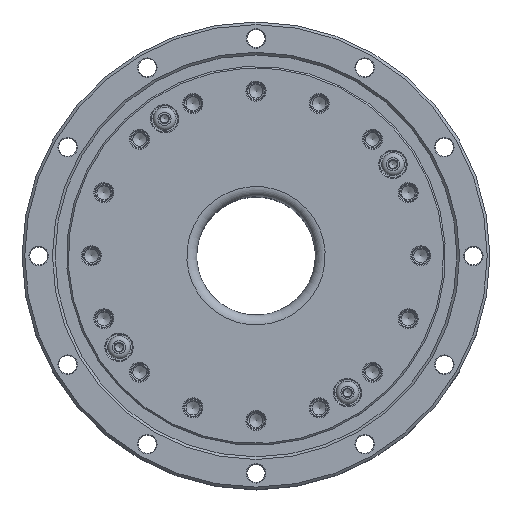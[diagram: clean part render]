
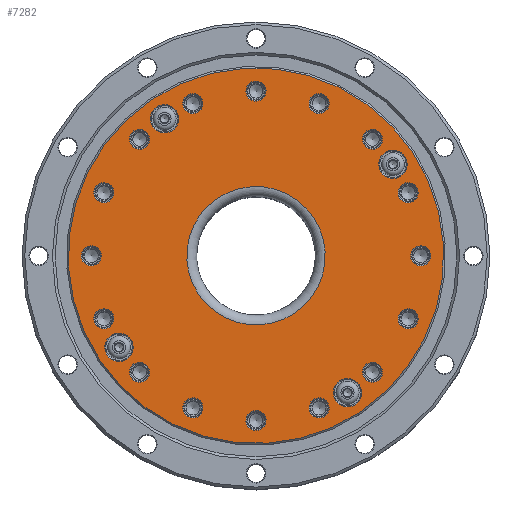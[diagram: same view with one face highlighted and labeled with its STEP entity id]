
A CAD part, top view. The second image highlights one B-rep face of the part: STEP entity #7282.
In plain terms, the highlighted planar face has unit normal (0, 0, 1).
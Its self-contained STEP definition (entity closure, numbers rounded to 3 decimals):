
#7282=ADVANCED_FACE('',(#10528,#10529,#10530,#10531,#10532,#10533,#10534,
#10535,#10536,#10537,#10538,#10539,#10540,#10541,#10542,#10543,#10544,#10545,
#10546,#10547,#10548,#10549),#8369,.T.);
#8369=PLANE('',#31676);
#10528=FACE_BOUND('',#13566,.T.);
#10529=FACE_BOUND('',#13567,.T.);
#10530=FACE_BOUND('',#13568,.T.);
#10531=FACE_BOUND('',#13569,.T.);
#10532=FACE_BOUND('',#13570,.T.);
#10533=FACE_BOUND('',#13571,.T.);
#10534=FACE_BOUND('',#13572,.T.);
#10535=FACE_BOUND('',#13573,.T.);
#10536=FACE_BOUND('',#13574,.T.);
#10537=FACE_BOUND('',#13575,.T.);
#10538=FACE_BOUND('',#13576,.T.);
#10539=FACE_BOUND('',#13577,.T.);
#10540=FACE_BOUND('',#13578,.T.);
#10541=FACE_BOUND('',#13579,.T.);
#10542=FACE_BOUND('',#13580,.T.);
#10543=FACE_BOUND('',#13581,.T.);
#10544=FACE_BOUND('',#13582,.T.);
#10545=FACE_BOUND('',#13583,.T.);
#10546=FACE_BOUND('',#13584,.T.);
#10547=FACE_BOUND('',#13585,.T.);
#10548=FACE_BOUND('',#13586,.T.);
#10549=FACE_BOUND('',#13587,.T.);
#13566=EDGE_LOOP('',(#19001));
#13567=EDGE_LOOP('',(#19002));
#13568=EDGE_LOOP('',(#19003));
#13569=EDGE_LOOP('',(#19004));
#13570=EDGE_LOOP('',(#19005));
#13571=EDGE_LOOP('',(#19006));
#13572=EDGE_LOOP('',(#19007));
#13573=EDGE_LOOP('',(#19008));
#13574=EDGE_LOOP('',(#19009));
#13575=EDGE_LOOP('',(#19010));
#13576=EDGE_LOOP('',(#19011));
#13577=EDGE_LOOP('',(#19012));
#13578=EDGE_LOOP('',(#19013));
#13579=EDGE_LOOP('',(#19014));
#13580=EDGE_LOOP('',(#19015));
#13581=EDGE_LOOP('',(#19016));
#13582=EDGE_LOOP('',(#19017));
#13583=EDGE_LOOP('',(#19018));
#13584=EDGE_LOOP('',(#19019));
#13585=EDGE_LOOP('',(#19020));
#13586=EDGE_LOOP('',(#19021));
#13587=EDGE_LOOP('',(#19022));
#19001=ORIENTED_EDGE('',*,*,#25787,.T.);
#19002=ORIENTED_EDGE('',*,*,#25788,.T.);
#19003=ORIENTED_EDGE('',*,*,#25789,.T.);
#19004=ORIENTED_EDGE('',*,*,#25790,.T.);
#19005=ORIENTED_EDGE('',*,*,#25791,.T.);
#19006=ORIENTED_EDGE('',*,*,#25792,.T.);
#19007=ORIENTED_EDGE('',*,*,#25793,.T.);
#19008=ORIENTED_EDGE('',*,*,#25794,.T.);
#19009=ORIENTED_EDGE('',*,*,#25795,.T.);
#19010=ORIENTED_EDGE('',*,*,#25796,.T.);
#19011=ORIENTED_EDGE('',*,*,#25797,.T.);
#19012=ORIENTED_EDGE('',*,*,#25798,.T.);
#19013=ORIENTED_EDGE('',*,*,#25799,.T.);
#19014=ORIENTED_EDGE('',*,*,#25800,.T.);
#19015=ORIENTED_EDGE('',*,*,#25801,.T.);
#19016=ORIENTED_EDGE('',*,*,#25802,.T.);
#19017=ORIENTED_EDGE('',*,*,#25803,.T.);
#19018=ORIENTED_EDGE('',*,*,#25804,.T.);
#19019=ORIENTED_EDGE('',*,*,#25805,.T.);
#19020=ORIENTED_EDGE('',*,*,#25806,.T.);
#19021=ORIENTED_EDGE('',*,*,#25807,.T.);
#19022=ORIENTED_EDGE('',*,*,#25808,.T.);
#22826=VERTEX_POINT('',#48826);
#22827=VERTEX_POINT('',#48828);
#22828=VERTEX_POINT('',#48830);
#22829=VERTEX_POINT('',#48832);
#22830=VERTEX_POINT('',#48834);
#22831=VERTEX_POINT('',#48836);
#22832=VERTEX_POINT('',#48838);
#22833=VERTEX_POINT('',#48840);
#22834=VERTEX_POINT('',#48842);
#22835=VERTEX_POINT('',#48844);
#22836=VERTEX_POINT('',#48846);
#22837=VERTEX_POINT('',#48848);
#22838=VERTEX_POINT('',#48850);
#22839=VERTEX_POINT('',#48852);
#22840=VERTEX_POINT('',#48854);
#22841=VERTEX_POINT('',#48856);
#22842=VERTEX_POINT('',#48858);
#22843=VERTEX_POINT('',#48860);
#22844=VERTEX_POINT('',#48862);
#22845=VERTEX_POINT('',#48864);
#22846=VERTEX_POINT('',#48866);
#22847=VERTEX_POINT('',#48868);
#25787=EDGE_CURVE('',#22826,#22826,#28221,.T.);
#25788=EDGE_CURVE('',#22827,#22827,#28222,.T.);
#25789=EDGE_CURVE('',#22828,#22828,#28223,.T.);
#25790=EDGE_CURVE('',#22829,#22829,#28224,.T.);
#25791=EDGE_CURVE('',#22830,#22830,#28225,.T.);
#25792=EDGE_CURVE('',#22831,#22831,#28226,.T.);
#25793=EDGE_CURVE('',#22832,#22832,#28227,.T.);
#25794=EDGE_CURVE('',#22833,#22833,#28228,.T.);
#25795=EDGE_CURVE('',#22834,#22834,#28229,.T.);
#25796=EDGE_CURVE('',#22835,#22835,#28230,.T.);
#25797=EDGE_CURVE('',#22836,#22836,#28231,.T.);
#25798=EDGE_CURVE('',#22837,#22837,#28232,.T.);
#25799=EDGE_CURVE('',#22838,#22838,#28233,.T.);
#25800=EDGE_CURVE('',#22839,#22839,#28234,.T.);
#25801=EDGE_CURVE('',#22840,#22840,#28235,.T.);
#25802=EDGE_CURVE('',#22841,#22841,#28236,.T.);
#25803=EDGE_CURVE('',#22842,#22842,#28237,.T.);
#25804=EDGE_CURVE('',#22843,#22843,#28238,.T.);
#25805=EDGE_CURVE('',#22844,#22844,#28239,.T.);
#25806=EDGE_CURVE('',#22845,#22845,#28240,.T.);
#25807=EDGE_CURVE('',#22846,#22846,#28241,.T.);
#25808=EDGE_CURVE('',#22847,#22847,#28242,.T.);
#28221=CIRCLE('',#31654,4.3);
#28222=CIRCLE('',#31655,4.3);
#28223=CIRCLE('',#31656,4.3);
#28224=CIRCLE('',#31657,4.3);
#28225=CIRCLE('',#31658,3.05);
#28226=CIRCLE('',#31659,3.05);
#28227=CIRCLE('',#31660,3.05);
#28228=CIRCLE('',#31661,3.05);
#28229=CIRCLE('',#31662,3.05);
#28230=CIRCLE('',#31663,3.05);
#28231=CIRCLE('',#31664,3.05);
#28232=CIRCLE('',#31665,3.05);
#28233=CIRCLE('',#31666,3.05);
#28234=CIRCLE('',#31667,3.05);
#28235=CIRCLE('',#31668,3.05);
#28236=CIRCLE('',#31669,3.05);
#28237=CIRCLE('',#31670,3.05);
#28238=CIRCLE('',#31671,3.05);
#28239=CIRCLE('',#31672,3.05);
#28240=CIRCLE('',#31673,3.05);
#28241=CIRCLE('',#31674,57.);
#28242=CIRCLE('',#31675,21.);
#31654=AXIS2_PLACEMENT_3D('',#48825,#39250,#39251);
#31655=AXIS2_PLACEMENT_3D('',#48827,#39252,#39253);
#31656=AXIS2_PLACEMENT_3D('',#48829,#39254,#39255);
#31657=AXIS2_PLACEMENT_3D('',#48831,#39256,#39257);
#31658=AXIS2_PLACEMENT_3D('',#48833,#39258,#39259);
#31659=AXIS2_PLACEMENT_3D('',#48835,#39260,#39261);
#31660=AXIS2_PLACEMENT_3D('',#48837,#39262,#39263);
#31661=AXIS2_PLACEMENT_3D('',#48839,#39264,#39265);
#31662=AXIS2_PLACEMENT_3D('',#48841,#39266,#39267);
#31663=AXIS2_PLACEMENT_3D('',#48843,#39268,#39269);
#31664=AXIS2_PLACEMENT_3D('',#48845,#39270,#39271);
#31665=AXIS2_PLACEMENT_3D('',#48847,#39272,#39273);
#31666=AXIS2_PLACEMENT_3D('',#48849,#39274,#39275);
#31667=AXIS2_PLACEMENT_3D('',#48851,#39276,#39277);
#31668=AXIS2_PLACEMENT_3D('',#48853,#39278,#39279);
#31669=AXIS2_PLACEMENT_3D('',#48855,#39280,#39281);
#31670=AXIS2_PLACEMENT_3D('',#48857,#39282,#39283);
#31671=AXIS2_PLACEMENT_3D('',#48859,#39284,#39285);
#31672=AXIS2_PLACEMENT_3D('',#48861,#39286,#39287);
#31673=AXIS2_PLACEMENT_3D('',#48863,#39288,#39289);
#31674=AXIS2_PLACEMENT_3D('',#48865,#39290,#39291);
#31675=AXIS2_PLACEMENT_3D('',#48867,#39292,#39293);
#31676=AXIS2_PLACEMENT_3D('',#48869,#39294,#39295);
#39250=DIRECTION('',(0.,0.,-1.));
#39251=DIRECTION('',(0.831,0.556,0.));
#39252=DIRECTION('',(0.,0.,-1.));
#39253=DIRECTION('',(0.831,0.556,0.));
#39254=DIRECTION('',(0.,0.,-1.));
#39255=DIRECTION('',(0.831,0.556,0.));
#39256=DIRECTION('',(0.,0.,-1.));
#39257=DIRECTION('',(0.831,0.556,0.));
#39258=DIRECTION('',(0.,0.,-1.));
#39259=DIRECTION('',(0.831,0.556,0.));
#39260=DIRECTION('',(0.,0.,-1.));
#39261=DIRECTION('',(0.831,0.556,0.));
#39262=DIRECTION('',(0.,0.,-1.));
#39263=DIRECTION('',(0.831,0.556,0.));
#39264=DIRECTION('',(0.,0.,-1.));
#39265=DIRECTION('',(0.831,0.556,0.));
#39266=DIRECTION('',(0.,0.,-1.));
#39267=DIRECTION('',(0.831,0.556,0.));
#39268=DIRECTION('',(0.,0.,-1.));
#39269=DIRECTION('',(0.831,0.556,0.));
#39270=DIRECTION('',(0.,0.,-1.));
#39271=DIRECTION('',(0.831,0.556,0.));
#39272=DIRECTION('',(0.,0.,-1.));
#39273=DIRECTION('',(0.831,0.556,0.));
#39274=DIRECTION('',(0.,0.,-1.));
#39275=DIRECTION('',(0.831,0.556,0.));
#39276=DIRECTION('',(0.,0.,-1.));
#39277=DIRECTION('',(0.831,0.556,0.));
#39278=DIRECTION('',(0.,0.,-1.));
#39279=DIRECTION('',(0.831,0.556,0.));
#39280=DIRECTION('',(0.,0.,-1.));
#39281=DIRECTION('',(0.831,0.556,0.));
#39282=DIRECTION('',(0.,0.,-1.));
#39283=DIRECTION('',(0.831,0.556,0.));
#39284=DIRECTION('',(0.,0.,-1.));
#39285=DIRECTION('',(0.831,0.556,0.));
#39286=DIRECTION('',(0.,0.,-1.));
#39287=DIRECTION('',(0.831,0.556,0.));
#39288=DIRECTION('',(0.,0.,-1.));
#39289=DIRECTION('',(0.831,0.556,0.));
#39290=DIRECTION('',(0.,0.,1.));
#39291=DIRECTION('',(0.831,0.556,0.));
#39292=DIRECTION('',(0.,0.,-1.));
#39293=DIRECTION('',(0.831,0.556,0.));
#39294=DIRECTION('',(0.,0.,1.));
#39295=DIRECTION('',(-0.831,-0.556,0.));
#48825=CARTESIAN_POINT('',(-27.779,41.573,61.));
#48826=CARTESIAN_POINT('',(-24.203,43.962,61.));
#48827=CARTESIAN_POINT('',(-41.573,-27.779,61.));
#48828=CARTESIAN_POINT('',(-37.998,-25.39,61.));
#48829=CARTESIAN_POINT('',(27.779,-41.573,61.));
#48830=CARTESIAN_POINT('',(31.354,-39.185,61.));
#48831=CARTESIAN_POINT('',(41.573,27.779,61.));
#48832=CARTESIAN_POINT('',(45.149,30.167,61.));
#48833=CARTESIAN_POINT('',(19.134,46.194,61.));
#48834=CARTESIAN_POINT('',(21.67,47.888,61.));
#48835=CARTESIAN_POINT('',(0.,50.,61.));
#48836=CARTESIAN_POINT('',(2.536,51.694,61.));
#48837=CARTESIAN_POINT('',(-19.134,46.194,61.));
#48838=CARTESIAN_POINT('',(-16.598,47.888,61.));
#48839=CARTESIAN_POINT('',(-35.355,35.355,61.));
#48840=CARTESIAN_POINT('',(-32.819,37.05,61.));
#48841=CARTESIAN_POINT('',(-46.194,19.134,61.));
#48842=CARTESIAN_POINT('',(-43.658,20.829,61.));
#48843=CARTESIAN_POINT('',(-50.,0.,61.));
#48844=CARTESIAN_POINT('',(-47.464,1.694,61.));
#48845=CARTESIAN_POINT('',(-46.194,-19.134,61.));
#48846=CARTESIAN_POINT('',(-43.658,-17.44,61.));
#48847=CARTESIAN_POINT('',(-35.355,-35.355,61.));
#48848=CARTESIAN_POINT('',(-32.819,-33.661,61.));
#48849=CARTESIAN_POINT('',(-19.134,-46.194,61.));
#48850=CARTESIAN_POINT('',(-16.598,-44.499,61.));
#48851=CARTESIAN_POINT('',(0.,-50.,61.));
#48852=CARTESIAN_POINT('',(2.536,-48.306,61.));
#48853=CARTESIAN_POINT('',(19.134,-46.194,61.));
#48854=CARTESIAN_POINT('',(21.67,-44.499,61.));
#48855=CARTESIAN_POINT('',(35.355,-35.355,61.));
#48856=CARTESIAN_POINT('',(37.891,-33.661,61.));
#48857=CARTESIAN_POINT('',(46.194,-19.134,61.));
#48858=CARTESIAN_POINT('',(48.73,-17.44,61.));
#48859=CARTESIAN_POINT('',(50.,0.,61.));
#48860=CARTESIAN_POINT('',(52.536,1.694,61.));
#48861=CARTESIAN_POINT('',(46.194,19.134,61.));
#48862=CARTESIAN_POINT('',(48.73,20.829,61.));
#48863=CARTESIAN_POINT('',(35.355,35.355,61.));
#48864=CARTESIAN_POINT('',(37.891,37.05,61.));
#48865=CARTESIAN_POINT('',(0.,0.,61.));
#48866=CARTESIAN_POINT('',(47.394,31.668,61.));
#48867=CARTESIAN_POINT('',(0.,0.,61.));
#48868=CARTESIAN_POINT('',(17.461,11.667,61.));
#48869=CARTESIAN_POINT('',(-31.945,47.81,61.));
